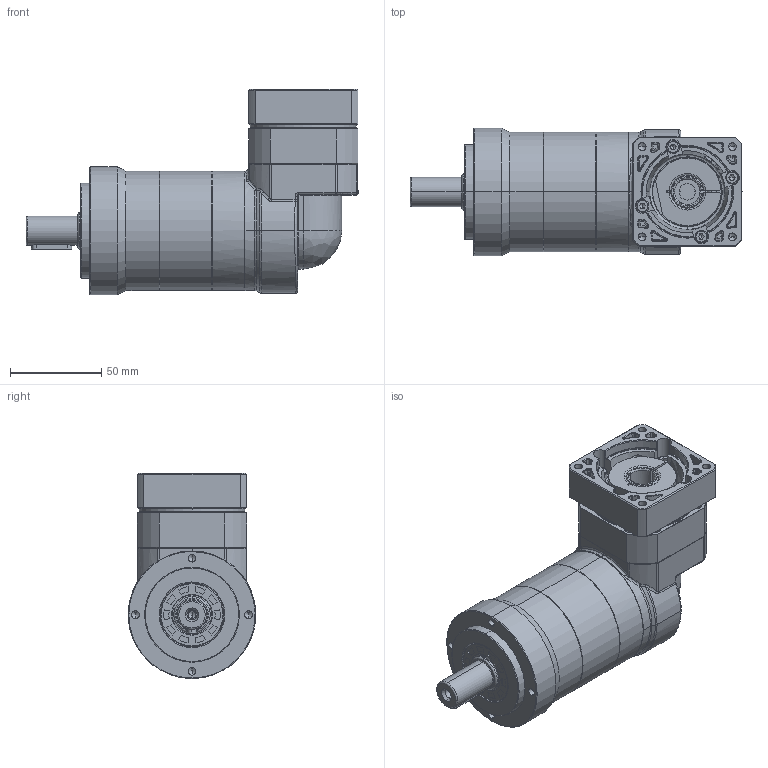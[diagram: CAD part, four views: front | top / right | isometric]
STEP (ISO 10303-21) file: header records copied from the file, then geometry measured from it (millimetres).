
FILE_DESCRIPTION (( 'STEP AP214' ), '1' );
FILE_NAME ('EVL070-L2-S2-P1 14-50-70-M5-33.STEP', '2025-02-14T07:00:34', ( '微软用户' ), ( '微软中国' ), 'SwSTEP 2.0', 'SolidWorks 2021', '' );
FILE_SCHEMA (( 'AUTOMOTIVE_DESIGN' ));
Length unit declared in the file: millimetre
Products named in the file (4): 3.EVT064F眻褒眊极_step_stp_stp.stp; VRL070D-L2-S2-14-50-70-M5-33; EVT060D-L2-8-38.1-66.7-M4-33; EVL070-L2-S2-P1 14-50-70-M5-33
Assembly tree (7 placements, depth 2):
  EVL070-L2-S2-P1 14-50-70-M5-33
    VRL070D-L2-S2-14-50-70-M5-33
    3.EVT064F眻褒眊极_step_stp_stp.stp
    EVT060D-L2-8-38.1-66.7-M4-33  x5
Bounding box: 182 x 70 x 112.5 mm (x, y, z)
Volume: 515170.8 mm3; surface area: 125530.1 mm2
Topology: 18 solids, 28 shells, 1422 faces, 3537 edges, 2180 vertices
Faces by surface type: cylinder 433, plane 380, bspline 296, cone 255, torus 58
Entity records: 59159 total; most frequent: CARTESIAN_POINT 30663, ORIENTED_EDGE 6264, DIRECTION 5302, EDGE_CURVE 3136, AXIS2_PLACEMENT_3D 2127, VERTEX_POINT 1968, EDGE_LOOP 1435, ADVANCED_FACE 1294
